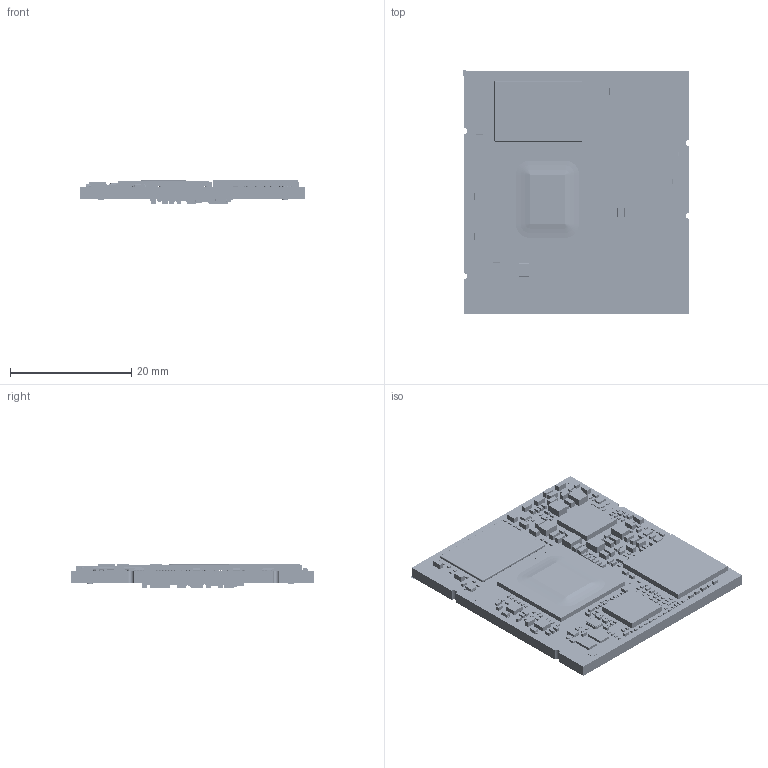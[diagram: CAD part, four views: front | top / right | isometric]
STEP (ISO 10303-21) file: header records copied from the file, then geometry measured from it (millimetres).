
FILE_DESCRIPTION(('STEP AP214'),'1');
FILE_NAME('1617.1_BoardAndModels.step','2024-09-03T05:50:44',(' '),(' '),'Spatial InterOp 3D','XD3DPlugin XRACreate',' ');
FILE_SCHEMA(('automotive_design'));
Length unit declared in the file: millimetre
Products named in the file (130): Submodel-N:\GROUP\DEVELOP\HARDWARE\PCL-078_phyCORE-iMX8MPlus__lpar_FPSC_rpar_\Design\1617.1\002\PCB\Layout\3D\Input_S\0201YC101KAZ2A.xtd; 0201YC101KAZ2A; Submodel-CAP3713_part_simplified_0201; DesignRootModel; Submodel-N:\GROUP\DEVELOP\HARDWARE\PCL-078_phyCORE-iMX8MPlus__lpar_FPSC_rpar_\Design\1617.1\002\PCB\Layout\3D\Input_S\06035C473JAZ7A_0.xtd; 06035C473JAZ7A_0; Submodel-CAP3343_part_simplified_0603-C3; Submodel-N:\GROUP\DEVELOP\HARDWARE\PCL-078_phyCORE-iMX8MPlus__lpar_FPSC_rpar_\Design\1617.1\002\PCB\Layout\3D\Input_S\RC0603F1005CS.xtd; RC0603F1005CS; Submodel-RES5713_part_simplified_0201; Submodel-N:\GROUP\DEVELOP\HARDWARE\PCL-078_phyCORE-iMX8MPlus__lpar_FPSC_rpar_\Design\1617.1\002\PCB\Layout\3D\Input_S\CRCW020110R7JNEF.xtd; CRCW020110R7JNEF; Submodel-RES5653_part_simplified_0201; Submodel-RES5673_part_simplified_0201; Submodel-CAP3843_part_simplified_0201; Submodel-RES6123_part_simplified_0201; Submodel-N:\GROUP\DEVELOP\HARDWARE\PCL-078_phyCORE-iMX8MPlus__lpar_FPSC_rpar_\Design\1617.1\002\PCB\Layout\3D\Input_S\xd_sot666_4.xtd; xd_sot666_4; Submodel-ICGEN523_part_simplified_R-PDSO-N6-DRL; Submodel-CAP3313_part_simplified_0201; Submodel-N:\GROUP\DEVELOP\HARDWARE\PCL-078_phyCORE-iMX8MPlus__lpar_FPSC_rpar_\Design\1617.1\002\PCB\Layout\3D\Input_S\BLM15BD471SN1D.xtd; BLM15BD471SN1D; Submodel-FILTER92_part_simplified_0402-C3; Submodel-N:\GROUP\DEVELOP\HARDWARE\PCL-078_phyCORE-iMX8MPlus__lpar_FPSC_rpar_\Design\1617.1\002\PCB\Layout\3D\Input_S\0402YC822JAZ4A.xtd; 0402YC822JAZ4A; Submodel-CAP722_part_simplified_0402-C3; Submodel-N:\GROUP\DEVELOP\HARDWARE\PCL-078_phyCORE-iMX8MPlus__lpar_FPSC_rpar_\Design\1617.1\002\PCB\Layout\3D\Input_S\REMOVE_CONN13663.xtd; REMOVE_CONN13663; Submodel-CONN13663_part_simplified_Testpunkt-0.5mm; Submodel-RES5773_part_simplified_0201; Submodel-N:\GROUP\DEVELOP\HARDWARE\PCL-078_phyCORE-iMX8MPlus__lpar_FPSC_rpar_\Design\1617.1\002\PCB\Layout\3D\Input_S\EEPROM202.xtd; EEPROM202; Submodel-EEPROM202_part_simplified_DFN8-50-EP1_comma_2x1_comma_2; Submodel-N:\GROUP\DEVELOP\HARDWARE\PCL-078_phyCORE-iMX8MPlus__lpar_FPSC_rpar_\Design\1617.1\002\PCB\Layout\3D\Input_S\TRANSISTOR932.xtd; TRANSISTOR932; Submodel-TRANSISTOR932_part_simplified_DFN-0806-3; Submodel-CAP3003_part_simplified_0201; Submodel-N:\GROUP\DEVELOP\HARDWARE\PCL-078_phyCORE-iMX8MPlus__lpar_FPSC_rpar_\Design\1617.1\002\PCB\Layout\3D\Input_S\C0402C270F5GAC_0.xtd; C0402C270F5GAC_0; Submodel-CAP3793_part_simplified_0402-1230x660um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
Assembly tree (514 placements, depth 5):
  1617.1_BoardAndModels
    DesignRootModel
      Submodel-CAP3713_part_simplified_0201  x18
        Submodel-N:\GROUP\DEVELOP\HARDWARE\PCL-078_phyCORE-iMX8MPlus__lpar_FPSC_rpar_\Design\1617.1\002\PCB\Layout\3D\Input_S\0201YC101KAZ2A.xtd
          0201YC101KAZ2A
      Submodel-CAP3343_part_simplified_0603-C3  x40
        Submodel-N:\GROUP\DEVELOP\HARDWARE\PCL-078_phyCORE-iMX8MPlus__lpar_FPSC_rpar_\Design\1617.1\002\PCB\Layout\3D\Input_S\06035C473JAZ7A_0.xtd
          06035C473JAZ7A_0
      Submodel-RES5713_part_simplified_0201  x14
        Submodel-N:\GROUP\DEVELOP\HARDWARE\PCL-078_phyCORE-iMX8MPlus__lpar_FPSC_rpar_\Design\1617.1\002\PCB\Layout\3D\Input_S\RC0603F1005CS.xtd
          RC0603F1005CS
      Submodel-RES5653_part_simplified_0201  x14
        Submodel-N:\GROUP\DEVELOP\HARDWARE\PCL-078_phyCORE-iMX8MPlus__lpar_FPSC_rpar_\Design\1617.1\002\PCB\Layout\3D\Input_S\CRCW020110R7JNEF.xtd
          CRCW020110R7JNEF
      Submodel-RES5673_part_simplified_0201  x26
        Submodel-N:\GROUP\DEVELOP\HARDWARE\PCL-078_phyCORE-iMX8MPlus__lpar_FPSC_rpar_\Design\1617.1\002\PCB\Layout\3D\Input_S\RC0603F1005CS.xtd
          RC0603F1005CS
      Submodel-CAP3843_part_simplified_0201  x106
        Submodel-N:\GROUP\DEVELOP\HARDWARE\PCL-078_phyCORE-iMX8MPlus__lpar_FPSC_rpar_\Design\1617.1\002\PCB\Layout\3D\Input_S\0201YC101KAZ2A.xtd
          0201YC101KAZ2A
      Submodel-RES6123_part_simplified_0201  x8
        Submodel-N:\GROUP\DEVELOP\HARDWARE\PCL-078_phyCORE-iMX8MPlus__lpar_FPSC_rpar_\Design\1617.1\002\PCB\Layout\3D\Input_S\CRCW020110R7JNEF.xtd
          CRCW020110R7JNEF
      Submodel-ICGEN523_part_simplified_R-PDSO-N6-DRL  x4
        Submodel-N:\GROUP\DEVELOP\HARDWARE\PCL-078_phyCORE-iMX8MPlus__lpar_FPSC_rpar_\Design\1617.1\002\PCB\Layout\3D\Input_S\xd_sot666_4.xtd
          xd_sot666_4
      Submodel-CAP3313_part_simplified_0201  x2
        Submodel-N:\GROUP\DEVELOP\HARDWARE\PCL-078_phyCORE-iMX8MPlus__lpar_FPSC_rpar_\Design\1617.1\002\PCB\Layout\3D\Input_S\0201YC101KAZ2A.xtd
          0201YC101KAZ2A
      Submodel-FILTER92_part_simplified_0402-C3  x9
        Submodel-N:\GROUP\DEVELOP\HARDWARE\PCL-078_phyCORE-iMX8MPlus__lpar_FPSC_rpar_\Design\1617.1\002\PCB\Layout\3D\Input_S\BLM15BD471SN1D.xtd
          BLM15BD471SN1D
      Submodel-CAP722_part_simplified_0402-C3  x29
        Submodel-N:\GROUP\DEVELOP\HARDWARE\PCL-078_phyCORE-iMX8MPlus__lpar_FPSC_rpar_\Design\1617.1\002\PCB\Layout\3D\Input_S\0402YC822JAZ4A.xtd
          0402YC822JAZ4A
      Submodel-CONN13663_part_simplified_Testpunkt-0.5mm  x5
        Submodel-N:\GROUP\DEVELOP\HARDWARE\PCL-078_phyCORE-iMX8MPlus__lpar_FPSC_rpar_\Design\1617.1\002\PCB\Layout\3D\Input_S\REMOVE_CONN13663.xtd
          REMOVE_CONN13663
      Submodel-RES5773_part_simplified_0201  x6
        Submodel-N:\GROUP\DEVELOP\HARDWARE\PCL-078_phyCORE-iMX8MPlus__lpar_FPSC_rpar_\Design\1617.1\002\PCB\Layout\3D\Input_S\RC0603F1005CS.xtd
          RC0603F1005CS
      Submodel-EEPROM202_part_simplified_DFN8-50-EP1_comma_2x1_comma_2  x2
        Submodel-N:\GROUP\DEVELOP\HARDWARE\PCL-078_phyCORE-iMX8MPlus__lpar_FPSC_rpar_\Design\1617.1\002\PCB\Layout\3D\Input_S\EEPROM202.xtd
          EEPROM202
      Submodel-TRANSISTOR932_part_simplified_DFN-0806-3  x8
        Submodel-N:\GROUP\DEVELOP\HARDWARE\PCL-078_phyCORE-iMX8MPlus__lpar_FPSC_rpar_\Design\1617.1\002\PCB\Layout\3D\Input_S\TRANSISTOR932.xtd
          TRANSISTOR932
      Submodel-CAP3003_part_simplified_0201  x4
        Submodel-N:\GROUP\DEVELOP\HARDWARE\PCL-078_phyCORE-iMX8MPlus__lpar_FPSC_rpar_\Design\1617.1\002\PCB\Layout\3D\Input_S\0201YC101KAZ2A.xtd
          0201YC101KAZ2A
      Submodel-CAP3793_part_simplified_0402-1230x660um  x10
        Submodel-N:\GROUP\DEVELOP\HARDWARE\PCL-078_phyCORE-iMX8MPlus__lpar_FPSC_rpar_\Design\1617.1\002\PCB\Layout\3D\Input_S\C0402C270F5GAC_0.xtd
          C0402C270F5GAC_0
      Submodel-RES5803_part_simplified_0201  x23
        Submodel-N:\GROUP\DEVELOP\HARDWARE\PCL-078_phyCORE-iMX8MPlus__lpar_FPSC_rpar_\Design\1617.1\002\PCB\Layout\3D\Input_S\RC0603F1005CS.xtd
          RC0603F1005CS
      Submodel-RES802_part_simplified_0402-C3  x7
        Submodel-N:\GROUP\DEVELOP\HARDWARE\PCL-078_phyCORE-iMX8MPlus__lpar_FPSC_rpar_\Design\1617.1\002\PCB\Layout\3D\Input_S\RCC-0402-1000F.xtd
          RCC-0402-1000F
      Submodel-CAP3663_part_simplified_0402-C3  x2
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Bounding box: 37.2 x 40.2 x 4.09 mm (x, y, z)
Volume: 3401.5 mm3; surface area: 6134 mm2
Topology: 1467 solids, 1467 shells, 7391 faces, 17737 edges, 11468 vertices
Faces by surface type: plane 5147, sphere 1854, cylinder 362, torus 24, bspline 4
Full cylindrical faces by diameter (mm): 0.25 x2
Entity records: 159035 total; most frequent: DIRECTION 21503, CARTESIAN_POINT 18005, ORIENTED_EDGE 15150, AXIS2_PLACEMENT_3D 8969, EDGE_CURVE 7575, PRESENTATION_STYLE_ASSIGNMENT 6282, COLOUR_RGB 6282, STYLED_ITEM 6274
